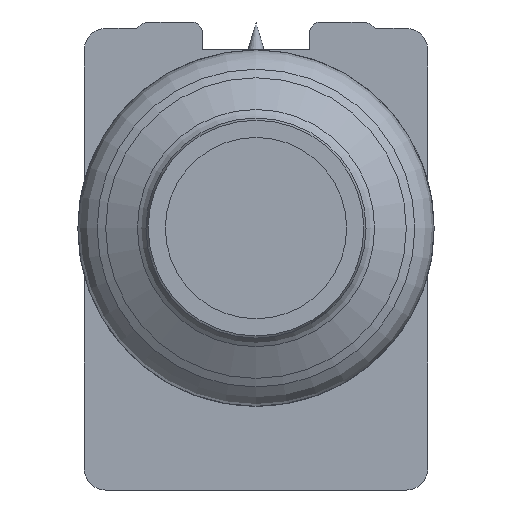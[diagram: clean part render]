
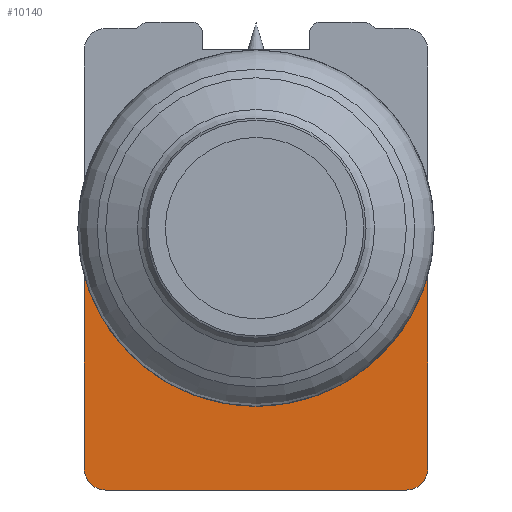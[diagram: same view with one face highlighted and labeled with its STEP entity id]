
A CAD part, left-side view. The second image highlights one B-rep face of the part: STEP entity #10140.
In plain terms, the highlighted planar face has unit normal (-1, 0, 0).
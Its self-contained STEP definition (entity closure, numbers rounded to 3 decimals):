
#10140=ADVANCED_FACE('', (#10150), #10160, .T.);
#10710=AXIS2_PLACEMENT_3D('Ax2Pl3d', #10720, #10730, #10740);
#12110=AXIS2_PLACEMENT_3D('Ax2Pl3d', #12120, #12130, #12140);
#12230=AXIS2_PLACEMENT_3D('Ax2Pl3d', #12240, #12250, #12260);
#35750=AXIS2_PLACEMENT_3D('Ax2Pl3d', #35760, #35770, #35780);
#52180=CARTESIAN_POINT('', (200.365,165.335,157.563));
#10720=CARTESIAN_POINT('HicPkt', (200.365,157.335,
159.774));
#52200=CARTESIAN_POINT('', (200.365,149.335,157.563));
#52280=CARTESIAN_POINT('', (200.365,149.335,157.563));
#52290=CARTESIAN_POINT('', (200.365,149.335,148.574));
#52450=CARTESIAN_POINT('', (200.365,165.335,148.574));
#52460=CARTESIAN_POINT('', (200.365,165.335,157.563));
#52930=CARTESIAN_POINT('', (200.365,150.335,147.574));
#12120=CARTESIAN_POINT('HicPkt', (200.365,150.335,
148.574));
#52960=CARTESIAN_POINT('', (200.365,150.335,147.574));
#52970=CARTESIAN_POINT('', (200.365,164.335,147.574));
#12240=CARTESIAN_POINT('HicPkt', (200.365,164.335,
148.574));
#35760=CARTESIAN_POINT('HicPkt', (200.365,151.764,
169.074));
#60940=CIRCLE('Circle', #10710, 8.3);
#61100=CIRCLE('Circle', #12110, 1.);
#61110=CIRCLE('Circle', #12230, 1.);
#10730=DIRECTION('Axis', (-1.,0.,
0.));
#10740=DIRECTION('RefDirection', (0.,
0.,-1.));
#88860=DIRECTION('', (0.,0.,1.));
#88950=DIRECTION('', (0.,0.,1.));
#12130=DIRECTION('Axis', (-1.,0.,0.)
);
#12140=DIRECTION('RefDirection', (0.,
0.,-1.));
#89180=DIRECTION('', (0.,-1.,0.));
#12250=DIRECTION('Axis', (-1.,0.,
0.));
#12260=DIRECTION('RefDirection', (0.,
0.,-1.));
#35770=DIRECTION('Axis', (-1.,0.,
0.));
#35780=DIRECTION('RefDirection', (0.,
0.,-1.));
#93120=EDGE_CURVE('', #93100, #93130, #60940, .T.);
#93280=EDGE_CURVE('', #93290, #93130, #93300, .T.);
#93550=EDGE_CURVE('', #93530, #93100, #93560, .T.);
#94360=EDGE_CURVE('', #94330, #93290, #61100, .T.);
#94400=EDGE_CURVE('', #94410, #94330, #94420, .T.);
#94810=EDGE_CURVE('', #93530, #94410, #61110, .T.);
#127550=EDGE_LOOP('Edge_loop', (#127560,#127570,#127580,#127590,#127600,
#127610));
#10150=FACE_OUTER_BOUND('Face_outer_bound', #127550, .T.);
#93300=LINE('Line', #52280, #133480);
#93560=LINE('Line', #52460, #133570);
#94420=LINE('Line', #52960, #133800);
#127560=ORIENTED_EDGE('', *, *, #94400, .T.);
#127570=ORIENTED_EDGE('', *, *, #94360, .T.);
#127580=ORIENTED_EDGE('', *, *, #93280, .T.);
#127590=ORIENTED_EDGE('', *, *, #93120, .F.);
#127600=ORIENTED_EDGE('', *, *, #93550, .F.);
#127610=ORIENTED_EDGE('', *, *, #94810, .T.);
#10160=PLANE('Plane', #35750);
#133480=VECTOR('', #88860, 8.989);
#133570=VECTOR('', #88950, 8.989);
#133800=VECTOR('', #89180, 14.);
#93100=VERTEX_POINT('', #52180);
#93130=VERTEX_POINT('', #52200);
#93290=VERTEX_POINT('', #52290);
#93530=VERTEX_POINT('', #52450);
#94330=VERTEX_POINT('', #52930);
#94410=VERTEX_POINT('', #52970);
